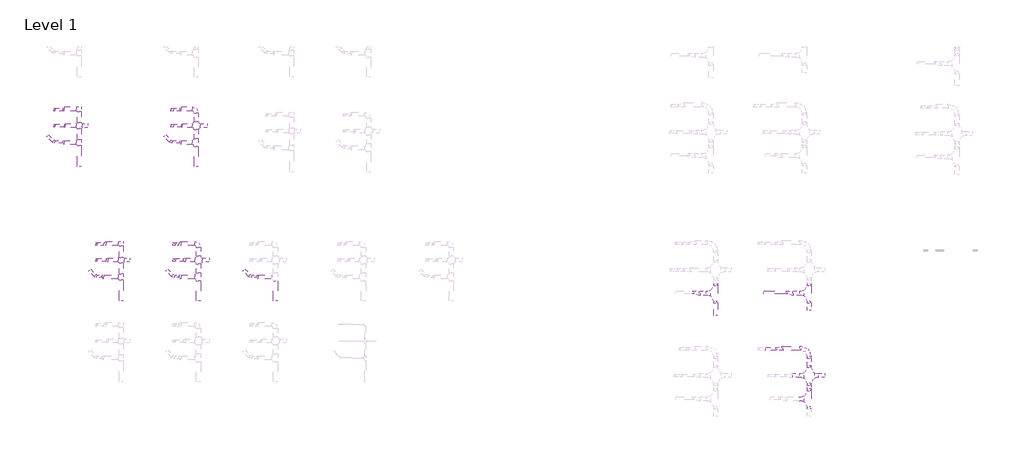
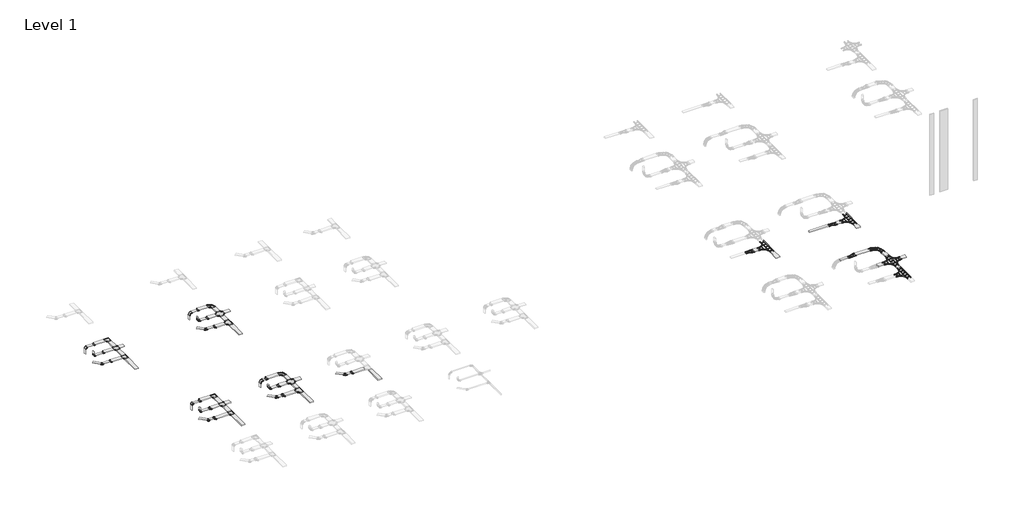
# One storey, part 2 of 42: 67 cable carrier segments, 46 cable carrier fittings.
"""IFC4 building model written with IfcOpenShell, lengths in millimetres."""

from ifc_helpers import new_model, si_unit, frame, origin, place, context, project, spatial, polyline, outline, extrude, transform, mapped, element, save
from components import cable_carrier_fitting_1_mm_2a4d519b, cable_carrier_fitting_1_mm_2e661681, cable_carrier_fitting_1_mm_c912ada3, cable_carrier_fitting_1_mm_5924018d, cable_carrier_fitting_1_mm_d3f2b815, cable_carrier_fitting_1_mm_367de262, cable_carrier_fitting_1_mm_a7febe8f, cable_carrier_fitting_1_mm_2da36d92, cable_carrier_fitting_1_mm_1f39f8d9, cable_carrier_fitting_1_mm_fc54f34e, cable_carrier_fitting_1_mm_42b71fda, cable_carrier_fitting_1_mm_1f89d0ee, cable_carrier_fitting_1_mm_ffd8b238, cable_carrier_fitting_1_mm_874ef249, cable_carrier_fitting_1_mm_28e4292d, cable_carrier_fitting_1_mm_2ed8489a, cable_carrier_fitting_1_mm_6bbfc198, cable_carrier_fitting_1_mm_9e79036f, cable_carrier_fitting_1_mm_2ea6bbca, cable_carrier_fitting_1_mm_d51f4f64, cable_carrier_fitting_1_mm_cfe8fd75, cable_carrier_fitting_1_mm_447bc4b9, cable_carrier_fitting_1_mm_be7f07a0, cable_carrier_fitting_1_mm_44e0f4b3, cable_carrier_fitting_1_mm_02684e42, cable_carrier_fitting_1_mm_9e154423, cable_carrier_fitting_1_5_mm_3523910d, cable_carrier_fitting_1_5_mm_ccf48cd3, cable_carrier_fitting_1_5_mm_0168b917, cable_carrier_fitting_1_mm_c1197fce, cable_carrier_fitting_1_5_mm_cd1b78aa, cable_carrier_fitting_1_5_mm_8b0a73e9, cable_carrier_fitting_1_5_mm_19f47176

model = new_model("IFC4")

# Units and contexts
model_context = context("Model", 3, world=origin())
ifc_project = project(units=[si_unit("LENGTHUNIT", "METRE", prefix="MILLI")], contexts=[model_context])

# Site, building, storey
site = spatial("IfcSite", under=ifc_project)
building = spatial("IfcBuilding", under=site)
storey = spatial("IfcBuildingStorey", under=building, Name="Level 1", Elevation=0.0)

# Cable carrier fittings
placement = place(None, origin())
cable_carrier_fitting_1_mm_shape = cable_carrier_fitting_1_mm_2a4d519b(model_context)
element("IfcCableCarrierFitting", 1, ObjectType="BAKS_Redukcja : 1 mm", at=placement, inside=storey, context=model_context, shape_type="MappedRepresentation", body=[
    mapped(cable_carrier_fitting_1_mm_shape, transform((-29212.5109632, 12056.9815921, 2750.0), x_axis=(1.0, 0.0, 0.0), y_axis=(0.0, 1.0, 0.0), z_axis=(0.0, 0.0, 1.0))),
])
element("IfcCableCarrierFitting", 2, ObjectType="BAKS_Redukcja : 1 mm", at=placement, inside=storey, context=model_context, shape_type="MappedRepresentation", body=[
    mapped(cable_carrier_fitting_1_mm_shape, transform((-20692.5109632, 12056.9815921, 2750.0), x_axis=(1.0, 0.0, 0.0), y_axis=(0.0, 1.0, 0.0), z_axis=(0.0, 0.0, 1.0))),
])
cable_carrier_fitting_1_mm_2_shape = cable_carrier_fitting_1_mm_2e661681(model_context)
element("IfcCableCarrierFitting", 3, ObjectType="BAKS_Redukcja : 1 mm", at=placement, inside=storey, context=model_context, shape_type="MappedRepresentation", body=[
    mapped(cable_carrier_fitting_1_mm_2_shape, transform((-29212.5109632, 13274.9728497, 2750.0), x_axis=(-1.0, 0.0, 0.0), y_axis=(0.0, -1.0, 0.0), z_axis=(0.0, 0.0, 1.0))),
])
element("IfcCableCarrierFitting", 4, ObjectType="BAKS_Redukcja : 1 mm", at=placement, inside=storey, context=model_context, shape_type="MappedRepresentation", body=[
    mapped(cable_carrier_fitting_1_mm_2_shape, transform((-20692.5109632, 13274.9728497, 2750.0), x_axis=(-1.0, 0.0, 0.0), y_axis=(0.0, -1.0, 0.0), z_axis=(0.0, 0.0, 1.0))),
])
cable_carrier_fitting_1_mm_3_shape = cable_carrier_fitting_1_mm_c912ada3(model_context)
element("IfcCableCarrierFitting", 5, ObjectType="BAKS_Redukcja : 1 mm", at=placement, inside=storey, context=model_context, shape_type="MappedRepresentation", body=[
    mapped(cable_carrier_fitting_1_mm_3_shape, transform((-29212.5109632, 10826.3491795, 2750.0), x_axis=(-1.0, 0.0, 0.0), y_axis=(0.0, -1.0, 0.0), z_axis=(0.0, 0.0, 1.0))),
])
element("IfcCableCarrierFitting", 6, ObjectType="BAKS_Redukcja : 1 mm", at=placement, inside=storey, context=model_context, shape_type="MappedRepresentation", body=[
    mapped(cable_carrier_fitting_1_mm_3_shape, transform((-20692.5109632, 10826.3491795, 2750.0), x_axis=(-1.0, 0.0, 0.0), y_axis=(0.0, -1.0, 0.0), z_axis=(0.0, 0.0, 1.0))),
])
cable_carrier_fitting_1_mm_4_shape = cable_carrier_fitting_1_mm_5924018d(model_context)
element("IfcCableCarrierFitting", 7, ObjectType="BAKS_Trójnik_koryta uniwersalny : 1 mm", at=placement, inside=storey, context=model_context, shape_type="MappedRepresentation", body=[
    mapped(cable_carrier_fitting_1_mm_4_shape, transform((-25049.8264137, 1032.0937292, 2750.0), x_axis=(0.0, -1.0, 0.0), y_axis=(1.0, 0.0, 0.0), z_axis=(0.0, 0.0, 1.0))),
])
cable_carrier_fitting_1_mm_5_shape = cable_carrier_fitting_1_mm_d3f2b815(model_context)
element("IfcCableCarrierFitting", 8, ObjectType="BAKS_Czwórnik_koryta uniwersalny : 1 mm", at=placement, inside=storey, context=model_context, shape_type="MappedRepresentation", body=[
    mapped(cable_carrier_fitting_1_mm_5_shape, transform((-25049.8264137, 2262.7261418, 2750.0), x_axis=(0.0, 1.0, 0.0), y_axis=(-1.0, 0.0, 0.0), z_axis=(0.0, 0.0, 1.0))),
])
cable_carrier_fitting_1_mm_6_shape = cable_carrier_fitting_1_mm_367de262(model_context)
element("IfcCableCarrierFitting", 9, ObjectType="BAKS_Czwórnik_koryta KLIK (R140) : 1 mm", at=placement, inside=storey, context=model_context, shape_type="MappedRepresentation", body=[
    mapped(cable_carrier_fitting_1_mm_6_shape, transform((-19429.8264137, 2262.7261418, 2750.0), x_axis=(0.0, 1.0, 0.0), y_axis=(-1.0, 0.0, 0.0), z_axis=(0.0, 0.0, 1.0))),
])
cable_carrier_fitting_1_mm_7_shape = cable_carrier_fitting_1_mm_a7febe8f(model_context)
element("IfcCableCarrierFitting", 10, ObjectType="BAKS_Trójnik_koryta KLIK (R140) : 1 mm", at=placement, inside=storey, context=model_context, shape_type="MappedRepresentation", body=[
    mapped(cable_carrier_fitting_1_mm_7_shape, transform((-19429.8264137, 1032.0937292, 2750.0), x_axis=(0.0, -1.0, 0.0), y_axis=(1.0, 0.0, 0.0), z_axis=(0.0, 0.0, 1.0))),
])
cable_carrier_fitting_1_mm_8_shape = cable_carrier_fitting_1_mm_2da36d92(model_context)
element("IfcCableCarrierFitting", 11, ObjectType="BAKS_Czwórnik_koryta (R140) : 1 mm", at=placement, inside=storey, context=model_context, shape_type="MappedRepresentation", body=[
    mapped(cable_carrier_fitting_1_mm_8_shape, transform((-19592.5109632, 12056.9815921, 2750.0), x_axis=(0.0, 1.0, 0.0), y_axis=(-1.0, 0.0, 0.0), z_axis=(0.0, 0.0, 1.0))),
])
cable_carrier_fitting_1_mm_9_shape = cable_carrier_fitting_1_mm_1f39f8d9(model_context)
element("IfcCableCarrierFitting", 12, ObjectType="BAKS_Trójnik_koryta (R140) : 1 mm", at=placement, inside=storey, context=model_context, shape_type="MappedRepresentation", body=[
    mapped(cable_carrier_fitting_1_mm_9_shape, transform((-19592.5109632, 10826.3491795, 2750.0), x_axis=(0.0, -1.0, 0.0), y_axis=(1.0, 0.0, 0.0), z_axis=(0.0, 0.0, 1.0))),
])
cable_carrier_fitting_1_mm_10_shape = cable_carrier_fitting_1_mm_fc54f34e(model_context)
element("IfcCableCarrierFitting", 13, ObjectType="BAKS_Kolano_koryta_uniwerslane : 1 mm", at=placement, inside=storey, context=model_context, shape_type="MappedRepresentation", body=[
    mapped(cable_carrier_fitting_1_mm_10_shape, transform((-26889.8264137, 1082.0937292, 2750.0), x_axis=(0.7071067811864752, -0.70710678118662, 0.0), y_axis=(0.70710678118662, 0.7071067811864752, 0.0), z_axis=(0.0, 0.0, 1.0))),
])
cable_carrier_fitting_1_mm_11_shape = cable_carrier_fitting_1_mm_42b71fda(model_context)
element("IfcCableCarrierFitting", 14, ObjectType="BAKS_Kolano_koryta_uniwerslane : 1 mm", at=placement, inside=storey, context=model_context, shape_type="MappedRepresentation", body=[
    mapped(cable_carrier_fitting_1_mm_11_shape, transform((-25049.8264137, 3480.7173994, 2750.0), x_axis=(0.0, 1.0, 0.0), y_axis=(-1.0, 0.0, 0.0), z_axis=(0.0, 0.0, 1.0))),
])
cable_carrier_fitting_1_mm_12_shape = cable_carrier_fitting_1_mm_1f89d0ee(model_context)
element("IfcCableCarrierFitting", 15, ObjectType="BAKS_Kolano_koryta_KLIK (R140) : 1 mm", at=placement, inside=storey, context=model_context, shape_type="MappedRepresentation", body=[
    mapped(cable_carrier_fitting_1_mm_12_shape, transform((-21269.8264137, 1082.0937292, 2750.0), x_axis=(0.7071067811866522, -0.707106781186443, 0.0), y_axis=(0.707106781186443, 0.7071067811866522, 0.0), z_axis=(0.0, 0.0, 1.0))),
])
cable_carrier_fitting_1_mm_13_shape = cable_carrier_fitting_1_mm_ffd8b238(model_context)
element("IfcCableCarrierFitting", 16, ObjectType="BAKS_Kolano_koryta_KLIK (R140) : 1 mm", at=placement, inside=storey, context=model_context, shape_type="MappedRepresentation", body=[
    mapped(cable_carrier_fitting_1_mm_13_shape, transform((-19429.8264137, 3480.7173994, 2750.0), x_axis=(0.0, 1.0, 0.0), y_axis=(-1.0, 0.0, 0.0), z_axis=(0.0, 0.0, 1.0))),
])
cable_carrier_fitting_1_mm_14_shape = cable_carrier_fitting_1_mm_874ef249(model_context)
element("IfcCableCarrierFitting", 17, ObjectType="BAKS_Kolano_koryta : 1 mm", at=placement, inside=storey, context=model_context, shape_type="MappedRepresentation", body=[
    mapped(cable_carrier_fitting_1_mm_14_shape, transform((-29952.5109632, 10876.3491795, 2750.0), x_axis=(0.7071067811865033, -0.7071067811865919, 0.0), y_axis=(0.7071067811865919, 0.7071067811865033, 0.0), z_axis=(0.0, 0.0, 1.0))),
])
cable_carrier_fitting_1_mm_15_shape = cable_carrier_fitting_1_mm_28e4292d(model_context)
element("IfcCableCarrierFitting", 18, ObjectType="BAKS_Kolano_koryta : 1 mm", at=placement, inside=storey, context=model_context, shape_type="MappedRepresentation", body=[
    mapped(cable_carrier_fitting_1_mm_15_shape, transform((-28112.5109632, 13274.9728497, 2750.0), x_axis=(0.0, 1.0, 0.0), y_axis=(-1.0, 0.0, 0.0), z_axis=(0.0, 0.0, 1.0))),
])
cable_carrier_fitting_1_mm_16_shape = cable_carrier_fitting_1_mm_2ed8489a(model_context)
element("IfcCableCarrierFitting", 19, ObjectType="BAKS_Kolano_koryta (R140) : 1 mm", at=placement, inside=storey, context=model_context, shape_type="MappedRepresentation", body=[
    mapped(cable_carrier_fitting_1_mm_16_shape, transform((-21432.5109632, 10876.3491795, 2750.0), x_axis=(0.7071067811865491, -0.7071067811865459, 0.0), y_axis=(0.7071067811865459, 0.7071067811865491, 0.0), z_axis=(0.0, 0.0, 1.0))),
])
cable_carrier_fitting_1_mm_17_shape = cable_carrier_fitting_1_mm_6bbfc198(model_context)
element("IfcCableCarrierFitting", 20, ObjectType="BAKS_Kolano_koryta (R140) : 1 mm", at=placement, inside=storey, context=model_context, shape_type="MappedRepresentation", body=[
    mapped(cable_carrier_fitting_1_mm_17_shape, transform((-19592.5109632, 13274.9728497, 2750.0), x_axis=(0.0, 1.0, 0.0), y_axis=(-1.0, 0.0, 0.0), z_axis=(0.0, 0.0, 1.0))),
])
cable_carrier_fitting_1_mm_18_shape = cable_carrier_fitting_1_mm_9e79036f(model_context)
element("IfcCableCarrierFitting", 21, ObjectType="BAKS_Czwórnik_koryta : 1 mm", at=placement, inside=storey, context=model_context, shape_type="MappedRepresentation", body=[
    mapped(cable_carrier_fitting_1_mm_18_shape, transform((-28112.5109632, 12056.9815921, 2750.0), x_axis=(0.0, 1.0, 0.0), y_axis=(-1.0, 0.0, 0.0), z_axis=(0.0, 0.0, 1.0))),
])
cable_carrier_fitting_1_mm_19_shape = cable_carrier_fitting_1_mm_2ea6bbca(model_context)
element("IfcCableCarrierFitting", 22, ObjectType="BAKS_Trójnik_koryta : 1 mm", at=placement, inside=storey, context=model_context, shape_type="MappedRepresentation", body=[
    mapped(cable_carrier_fitting_1_mm_19_shape, transform((-28112.5109632, 10826.3491795, 2750.0), x_axis=(0.0, -1.0, 0.0), y_axis=(1.0, 0.0, 0.0), z_axis=(0.0, 0.0, 1.0))),
])
cable_carrier_fitting_1_mm_20_shape = cable_carrier_fitting_1_mm_d51f4f64(model_context)
element("IfcCableCarrierFitting", 23, ObjectType="BAKS_Łuk_koryta_pionowy (R50)z : 1 mm", at=placement, inside=storey, context=model_context, shape_type="MappedRepresentation", body=[
    mapped(cable_carrier_fitting_1_mm_20_shape, transform((-29952.5109632, 13224.9728497, 2750.0), x_axis=(0.0, 0.0, 1.0), y_axis=(1.0, 0.0, 0.0), z_axis=(0.0, 1.0, 0.0))),
])
element("IfcCableCarrierFitting", 24, ObjectType="BAKS_Łuk_koryta_pionowy (R50)w : 1 mm", at=placement, inside=storey, context=model_context, shape_type="MappedRepresentation", body=[
    mapped(cable_carrier_fitting_1_mm_20_shape, transform((-29952.5109632, 12056.9815921, 2750.0), x_axis=(0.0, 0.0, -1.0), y_axis=(1.0, 0.0, 0.0), z_axis=(0.0, -1.0, 0.0))),
])
cable_carrier_fitting_1_mm_21_shape = cable_carrier_fitting_1_mm_cfe8fd75(model_context)
element("IfcCableCarrierFitting", 25, ObjectType="BAKS_Łuk_koryta_pionowy (R50)z : 1 mm", at=placement, inside=storey, context=model_context, shape_type="MappedRepresentation", body=[
    mapped(cable_carrier_fitting_1_mm_21_shape, transform((-26889.8264137, 3430.7173994, 2750.0), x_axis=(0.0, 0.0, 1.0), y_axis=(1.0, 0.0, 0.0), z_axis=(0.0, 1.0, 0.0))),
])
element("IfcCableCarrierFitting", 26, ObjectType="BAKS_Łuk_koryta_pionowy (R50)w : 1 mm", at=placement, inside=storey, context=model_context, shape_type="MappedRepresentation", body=[
    mapped(cable_carrier_fitting_1_mm_21_shape, transform((-26889.8264137, 2262.7261418, 2750.0), x_axis=(0.0, 0.0, -1.0), y_axis=(1.0, 0.0, 0.0), z_axis=(0.0, -1.0, 0.0))),
])
cable_carrier_fitting_1_mm_22_shape = cable_carrier_fitting_1_mm_447bc4b9(model_context)
element("IfcCableCarrierFitting", 27, ObjectType="BAKS_Redukcja KLIK : 1 mm", at=placement, inside=storey, context=model_context, shape_type="MappedRepresentation", body=[
    mapped(cable_carrier_fitting_1_mm_22_shape, transform((-26149.8264137, 2262.7261418, 2750.0), x_axis=(1.0, 0.0, 0.0), y_axis=(0.0, 1.0, 0.0), z_axis=(0.0, 0.0, 1.0))),
])
element("IfcCableCarrierFitting", 28, ObjectType="BAKS_Redukcja KLIK : 1 mm", at=placement, inside=storey, context=model_context, shape_type="MappedRepresentation", body=[
    mapped(cable_carrier_fitting_1_mm_22_shape, transform((-20529.8264137, 2262.7261418, 2750.0), x_axis=(1.0, 0.0, 0.0), y_axis=(0.0, 1.0, 0.0), z_axis=(0.0, 0.0, 1.0))),
])
cable_carrier_fitting_1_mm_23_shape = cable_carrier_fitting_1_mm_be7f07a0(model_context)
element("IfcCableCarrierFitting", 29, ObjectType="BAKS_Redukcja KLIK : 1 mm", at=placement, inside=storey, context=model_context, shape_type="MappedRepresentation", body=[
    mapped(cable_carrier_fitting_1_mm_23_shape, transform((-26149.8264137, 3480.7173994, 2750.0), x_axis=(-1.0, 0.0, 0.0), y_axis=(0.0, -1.0, 0.0), z_axis=(0.0, 0.0, 1.0))),
])
element("IfcCableCarrierFitting", 30, ObjectType="BAKS_Redukcja KLIK : 1 mm", at=placement, inside=storey, context=model_context, shape_type="MappedRepresentation", body=[
    mapped(cable_carrier_fitting_1_mm_23_shape, transform((-20689.8264137, 3480.7173994, 2750.0), x_axis=(-1.0, 0.0, 0.0), y_axis=(0.0, -1.0, 0.0), z_axis=(0.0, 0.0, 1.0))),
])
cable_carrier_fitting_1_mm_24_shape = cable_carrier_fitting_1_mm_44e0f4b3(model_context)
element("IfcCableCarrierFitting", 31, ObjectType="BAKS_Redukcja KLIK : 1 mm", at=placement, inside=storey, context=model_context, shape_type="MappedRepresentation", body=[
    mapped(cable_carrier_fitting_1_mm_24_shape, transform((-26309.8264137, 1032.0937292, 2750.0), x_axis=(-1.0, 0.0, 0.0), y_axis=(0.0, -1.0, 0.0), z_axis=(0.0, 0.0, 1.0))),
])
element("IfcCableCarrierFitting", 32, ObjectType="BAKS_Redukcja KLIK : 1 mm", at=placement, inside=storey, context=model_context, shape_type="MappedRepresentation", body=[
    mapped(cable_carrier_fitting_1_mm_24_shape, transform((-20689.8264137, 1032.0937292, 2750.0), x_axis=(-1.0, 0.0, 0.0), y_axis=(0.0, -1.0, 0.0), z_axis=(0.0, 0.0, 1.0))),
])
cable_carrier_fitting_1_mm_25_shape = cable_carrier_fitting_1_mm_02684e42(model_context)
element("IfcCableCarrierFitting", 33, ObjectType="BAKS_Łuk_koryta_pionowy (R140)z : 1 mm", at=placement, inside=storey, context=model_context, shape_type="MappedRepresentation", body=[
    mapped(cable_carrier_fitting_1_mm_25_shape, transform((-21269.8264137, 3430.7173994, 2750.0), x_axis=(0.0, 0.0, 1.0), y_axis=(1.0, 0.0, 0.0), z_axis=(0.0, 1.0, 0.0))),
])
cable_carrier_fitting_1_mm_26_shape = cable_carrier_fitting_1_mm_9e154423(model_context)
element("IfcCableCarrierFitting", 34, ObjectType="BAKS_Łuk_koryta_pionowy (R140)z : 1 mm", at=placement, inside=storey, context=model_context, shape_type="MappedRepresentation", body=[
    mapped(cable_carrier_fitting_1_mm_26_shape, transform((-21432.5109632, 13224.9728497, 2750.0), x_axis=(0.0, 0.0, 1.0), y_axis=(1.0, 0.0, 0.0), z_axis=(0.0, 1.0, 0.0))),
])
element("IfcCableCarrierFitting", 35, ObjectType="BAKS_Łuk_koryta_pionowy (R140)w : 1 mm", at=placement, inside=storey, context=model_context, shape_type="MappedRepresentation", body=[
    mapped(cable_carrier_fitting_1_mm_25_shape, transform((-21269.8264137, 2262.7261418, 2750.0), x_axis=(0.0, 0.0, -1.0), y_axis=(1.0, 0.0, 0.0), z_axis=(0.0, -1.0, 0.0))),
])
element("IfcCableCarrierFitting", 36, ObjectType="BAKS_Łuk_koryta_pionowy (R140)w : 1 mm", at=placement, inside=storey, context=model_context, shape_type="MappedRepresentation", body=[
    mapped(cable_carrier_fitting_1_mm_26_shape, transform((-21432.5109632, 12056.9815921, 2750.0), x_axis=(0.0, 0.0, -1.0), y_axis=(1.0, 0.0, 0.0), z_axis=(0.0, -1.0, 0.0))),
])
cable_carrier_fitting_1_5_mm_shape = cable_carrier_fitting_1_5_mm_3523910d(model_context)
element("IfcCableCarrierFitting", 37, ObjectType="BAKS_Łuk_drabiny E90 : 1.5 mm", at=placement, inside=storey, context=model_context, shape_type="MappedRepresentation", body=[
    mapped(cable_carrier_fitting_1_5_mm_shape, transform((25012.7309526, -4163.4535, 2750.0), x_axis=(0.0, 1.0, 0.0), y_axis=(-1.0, 0.0, 0.0), z_axis=(0.0, 0.0, 1.0))),
])
cable_carrier_fitting_1_5_mm_2_shape = cable_carrier_fitting_1_5_mm_ccf48cd3(model_context)
element("IfcCableCarrierFitting", 38, ObjectType="BAKS_Redukcja_drabiny E90 : 1.5 mm", at=placement, inside=storey, context=model_context, shape_type="MappedRepresentation", body=[
    mapped(cable_carrier_fitting_1_5_mm_2_shape, transform((17112.7309526, -152.0771703, 2750.0), x_axis=(-1.0, 0.0, 0.0), y_axis=(0.0, -1.0, 0.0), z_axis=(0.0, 0.0, 1.0))),
])
element("IfcCableCarrierFitting", 39, ObjectType="BAKS_Redukcja_drabiny E90 : 1.5 mm", at=placement, inside=storey, context=model_context, shape_type="MappedRepresentation", body=[
    mapped(cable_carrier_fitting_1_5_mm_2_shape, transform((23912.7309526, -152.0771703, 2750.0), x_axis=(-1.0, 0.0, 0.0), y_axis=(0.0, -1.0, 0.0), z_axis=(0.0, 0.0, 1.0))),
])
cable_carrier_fitting_1_5_mm_3_shape = cable_carrier_fitting_1_5_mm_0168b917(model_context)
element("IfcCableCarrierFitting", 40, ObjectType="BAKS_Redukcja_drabiny E90 : 1.5 mm", at=placement, inside=storey, context=model_context, shape_type="MappedRepresentation", body=[
    mapped(cable_carrier_fitting_1_5_mm_3_shape, transform((22546.1450634, -4213.4535, 2750.0), x_axis=(1.0, 0.0, 0.0), y_axis=(0.0, 1.0, 0.0), z_axis=(0.0, 0.0, 1.0))),
])
cable_carrier_fitting_1_mm_27_shape = cable_carrier_fitting_1_mm_c1197fce(model_context)
element("IfcCableCarrierFitting", 41, ObjectType="BAKS_Redukcja E90 : 1.5 mm", at=placement, inside=storey, context=model_context, shape_type="MappedRepresentation", body=[
    mapped(cable_carrier_fitting_1_mm_27_shape, transform((-15082.2064802, 1032.0937292, 2750.0), x_axis=(-1.0, 0.0, 0.0), y_axis=(0.0, -1.0, 0.0), z_axis=(0.0, 0.0, 1.0))),
])
cable_carrier_fitting_1_5_mm_4_shape = cable_carrier_fitting_1_5_mm_cd1b78aa(model_context)
element("IfcCableCarrierFitting", 42, ObjectType="BAKS_Kolano_koryta E90 (R140) : 1.5 mm", at=placement, inside=storey, context=model_context, shape_type="MappedRepresentation", body=[
    mapped(cable_carrier_fitting_1_5_mm_4_shape, transform((-15662.2064802, 1082.0937292, 2750.0), x_axis=(0.7071067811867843, -0.7071067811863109, 0.0), y_axis=(0.7071067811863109, 0.7071067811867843, 0.0), z_axis=(0.0, 0.0, 1.0))),
])
cable_carrier_fitting_1_5_mm_5_shape = cable_carrier_fitting_1_5_mm_8b0a73e9(model_context)
element("IfcCableCarrierFitting", 43, ObjectType="BAKS_Trójnik_drabiny E90 : 1.5 mm", at=placement, inside=storey, context=model_context, shape_type="MappedRepresentation", body=[
    mapped(cable_carrier_fitting_1_5_mm_5_shape, transform((18212.7309526, -152.0771703, 2750.0), x_axis=(0.0, -1.0, 0.0), y_axis=(1.0, 0.0, 0.0), z_axis=(0.0, 0.0, 1.0))),
])
element("IfcCableCarrierFitting", 44, ObjectType="BAKS_Trójnik_drabiny E90 : 1.5 mm", at=placement, inside=storey, context=model_context, shape_type="MappedRepresentation", body=[
    mapped(cable_carrier_fitting_1_5_mm_5_shape, transform((25012.7309526, -152.0771703, 2750.0), x_axis=(0.0, -1.0, 0.0), y_axis=(1.0, 0.0, 0.0), z_axis=(0.0, 0.0, 1.0))),
])
element("IfcCableCarrierFitting", 45, ObjectType="BAKS_Trójnik_drabiny E90 : 1.5 mm", at=placement, inside=storey, context=model_context, shape_type="MappedRepresentation", body=[
    mapped(cable_carrier_fitting_1_5_mm_5_shape, transform((25012.7309526, -7852.0771703, 2750.0), x_axis=(0.0, -1.0, 0.0), y_axis=(1.0, 0.0, 0.0), z_axis=(0.0, 0.0, 1.0))),
])
cable_carrier_fitting_1_5_mm_6_shape = cable_carrier_fitting_1_5_mm_19f47176(model_context)
element("IfcCableCarrierFitting", 46, ObjectType="BAKS_Czwórnik_drabiny E90 : 1.5 mm", at=placement, inside=storey, context=model_context, shape_type="MappedRepresentation", body=[
    mapped(cable_carrier_fitting_1_5_mm_6_shape, transform((25012.7309526, -6150.2319503, 2750.0), x_axis=(0.0, 1.0, 0.0), y_axis=(-1.0, 0.0, 0.0), z_axis=(0.0, 0.0, 1.0))),
])

# Cable carrier segments
element("IfcCableCarrierSegment", 47, ObjectType="BAKS - koryto kablowe H60 KLIK (KFJ) - ostre", at=placement, inside=storey, context=model_context, shape_type="SweptSolid", body=[
    extrude(outline(polyline([(-24899.8264137, 1237.0937292), (-25199.8264137, 1237.0937292), (-25199.8264137, 2057.7261418), (-24899.8264137, 2057.7261418), (-24899.8264137, 1237.0937292)])), frame((0.0, 0.0, 2720.0), z_axis=(0.0, 0.0, 1.0), x_axis=(1.0, 0.0, 0.0)), (0.0, 0.0, 1.0), 60.0),
])
element("IfcCableCarrierSegment", 48, ObjectType="BAKS - koryto kablowe H60 KLIK (KFJ) - ostre", at=placement, inside=storey, context=model_context, shape_type="SweptSolid", body=[
    extrude(outline(polyline([(-26859.8264137, 3330.7173994), (-26919.8264137, 3330.7173994), (-26919.8264137, 3530.7173994), (-26859.8264137, 3530.7173994), (-26859.8264137, 3330.7173994)])), frame((0.0, 0.0, 2200.0), z_axis=(0.0, 0.0, 1.0), x_axis=(1.0, 0.0, 0.0)), (0.0, 0.0, 1.0), 445.0),
])
element("IfcCableCarrierSegment", 49, ObjectType="BAKS - koryto kablowe H60 KLIK (KFJ) - ostre", at=placement, inside=storey, context=model_context, shape_type="SweptSolid", body=[
    extrude(outline(polyline([(-26309.8264137, 3530.7173994), (-26309.8264137, 3330.7173994), (-26784.8264137, 3330.7173994), (-26784.8264137, 3530.7173994), (-26309.8264137, 3530.7173994)])), frame((0.0, 0.0, 2720.0), z_axis=(0.0, 0.0, 1.0), x_axis=(1.0, 0.0, 0.0)), (0.0, 0.0, 1.0), 60.0),
])
element("IfcCableCarrierSegment", 50, ObjectType="BAKS - koryto kablowe H60 KLIK (KFJ) - ostre", at=placement, inside=storey, context=model_context, shape_type="SweptSolid", body=[
    extrude(outline(polyline([(-24899.8264137, -719.2826006), (-25199.8264137, -719.2826006), (-25199.8264137, 827.0937292), (-24899.8264137, 827.0937292), (-24899.8264137, -719.2826006)])), frame((0.0, 0.0, 2720.0), z_axis=(0.0, 0.0, 1.0), x_axis=(1.0, 0.0, 0.0)), (0.0, 0.0, 1.0), 60.0),
])
element("IfcCableCarrierSegment", 51, ObjectType="BAKS - koryto kablowe H60 KLIK (KFJ) - ostre", at=placement, inside=storey, context=model_context, shape_type="SweptSolid", body=[
    extrude(outline(polyline([(-26919.8264137, 2162.7261418), (-26919.8264137, 2362.7261418), (-26859.8264137, 2362.7261418), (-26859.8264137, 2162.7261418), (-26919.8264137, 2162.7261418)])), frame((0.0, 0.0, 2855.0), z_axis=(0.0, 0.0, 1.0), x_axis=(1.0, 0.0, 0.0)), (0.0, 0.0, 1.0), 245.0),
])
element("IfcCableCarrierSegment", 52, ObjectType="BAKS - koryto kablowe H60 KLIK (KFJ) - ostre", at=placement, inside=storey, context=model_context, shape_type="SweptSolid", body=[
    extrude(outline(polyline([(-26784.8264137, 2162.7261418), (-26784.8264137, 2362.7261418), (-26149.8264137, 2362.7261418), (-26149.8264137, 2162.7261418), (-26784.8264137, 2162.7261418)])), frame((0.0, 0.0, 2720.0), z_axis=(0.0, 0.0, 1.0), x_axis=(1.0, 0.0, 0.0)), (0.0, 0.0, 1.0), 60.0),
])
element("IfcCableCarrierSegment", 53, ObjectType="BAKS - koryto kablowe H60 KLIK (KFJ) - ostre", at=placement, inside=storey, context=model_context, shape_type="SweptSolid", body=[
    extrude(outline(polyline([(-27427.2275674, 1478.0735267), (-27285.8062111, 1619.4948829), (-26865.2212913, 1198.909963), (-27006.6426475, 1057.4886068), (-27427.2275674, 1478.0735267)])), frame((0.0, 0.0, 2720.0), z_axis=(0.0, 0.0, 1.0), x_axis=(1.0, 0.0, 0.0)), (0.0, 0.0, 1.0), 60.0),
])
element("IfcCableCarrierSegment", 54, ObjectType="BAKS - koryto kablowe H60 KLIK (KFJ) - ostre", at=placement, inside=storey, context=model_context, shape_type="SweptSolid", body=[
    extrude(outline(polyline([(-26469.8264137, 1182.0937292), (-26469.8264137, 982.0937292), (-26824.6233115, 982.0937292), (-26824.6233115, 1182.0937292), (-26469.8264137, 1182.0937292)])), frame((0.0, 0.0, 2720.0), z_axis=(0.0, 0.0, 1.0), x_axis=(1.0, 0.0, 0.0)), (0.0, 0.0, 1.0), 60.0),
])
element("IfcCableCarrierSegment", 55, ObjectType="BAKS - koryto kablowe H60 KLIK (KFJ) - ostre", at=placement, inside=storey, context=model_context, shape_type="SweptSolid", body=[
    extrude(outline(polyline([(-24427.3264137, 2412.7261418), (-24427.3264137, 2112.7261418), (-24844.8264137, 2112.7261418), (-24844.8264137, 2412.7261418), (-24427.3264137, 2412.7261418)])), frame((0.0, 0.0, 2720.0), z_axis=(0.0, 0.0, 1.0), x_axis=(1.0, 0.0, 0.0)), (0.0, 0.0, 1.0), 60.0),
])
element("IfcCableCarrierSegment", 56, ObjectType="BAKS - koryto kablowe H60 KLIK (KFJ) - ostre", at=placement, inside=storey, context=model_context, shape_type="SweptSolid", body=[
    extrude(outline(polyline([(-25254.8264137, 1182.0937292), (-25254.8264137, 882.0937292), (-26309.8264137, 882.0937292), (-26309.8264137, 1182.0937292), (-25254.8264137, 1182.0937292)])), frame((0.0, 0.0, 2720.0), z_axis=(0.0, 0.0, 1.0), x_axis=(1.0, 0.0, 0.0)), (0.0, 0.0, 1.0), 60.0),
])
element("IfcCableCarrierSegment", 57, ObjectType="BAKS - koryto kablowe H60 KLIK (KFJ) - ostre", at=placement, inside=storey, context=model_context, shape_type="SweptSolid", body=[
    extrude(outline(polyline([(-25989.8264137, 2112.7261418), (-25989.8264137, 2412.7261418), (-25254.8264137, 2412.7261418), (-25254.8264137, 2112.7261418), (-25989.8264137, 2112.7261418)])), frame((0.0, 0.0, 2720.0), z_axis=(0.0, 0.0, 1.0), x_axis=(1.0, 0.0, 0.0)), (0.0, 0.0, 1.0), 60.0),
])
element("IfcCableCarrierSegment", 58, ObjectType="BAKS - koryto kablowe H60 KLIK (KFJ) - ostre", at=placement, inside=storey, context=model_context, shape_type="SweptSolid", body=[
    extrude(outline(polyline([(-24899.8264137, 2467.7261418), (-25199.8264137, 2467.7261418), (-25199.8264137, 3274.7173994), (-24899.8264137, 3274.7173994), (-24899.8264137, 2467.7261418)])), frame((0.0, 0.0, 2720.0), z_axis=(0.0, 0.0, 1.0), x_axis=(1.0, 0.0, 0.0)), (0.0, 0.0, 1.0), 60.0),
])
element("IfcCableCarrierSegment", 59, ObjectType="BAKS - koryto kablowe H60 KLIK (KFJ) - ostre", at=placement, inside=storey, context=model_context, shape_type="SweptSolid", body=[
    extrude(outline(polyline([(-25255.8264137, 3630.7173994), (-25255.8264137, 3330.7173994), (-26149.8264137, 3330.7173994), (-26149.8264137, 3630.7173994), (-25255.8264137, 3630.7173994)])), frame((0.0, 0.0, 2720.0), z_axis=(0.0, 0.0, 1.0), x_axis=(1.0, 0.0, 0.0)), (0.0, 0.0, 1.0), 60.0),
])
element("IfcCableCarrierSegment", 60, ObjectType="BAKS - koryto kablowe H60 KLIK (KFJ) - promieniowe", at=placement, inside=storey, context=model_context, shape_type="SweptSolid", body=[
    extrude(outline(polyline([(-19279.8264137, 1323.0937292), (-19579.8264137, 1323.0937292), (-19579.8264137, 1971.7261418), (-19279.8264137, 1971.7261418), (-19279.8264137, 1323.0937292)])), frame((0.0, 0.0, 2720.0), z_axis=(0.0, 0.0, 1.0), x_axis=(1.0, 0.0, 0.0)), (0.0, 0.0, 1.0), 60.0),
])
element("IfcCableCarrierSegment", 61, ObjectType="BAKS - koryto kablowe H60 KLIK (KFJ) - promieniowe", at=placement, inside=storey, context=model_context, shape_type="SweptSolid", body=[
    extrude(outline(polyline([(-21239.8264137, 3330.7173994), (-21299.8264137, 3330.7173994), (-21299.8264137, 3530.7173994), (-21239.8264137, 3530.7173994), (-21239.8264137, 3330.7173994)])), frame((0.0, 0.0, 2200.0), z_axis=(0.0, 0.0, 1.0), x_axis=(1.0, 0.0, 0.0)), (0.0, 0.0, 1.0), 355.0),
])
element("IfcCableCarrierSegment", 62, ObjectType="BAKS - koryto kablowe H60 KLIK (KFJ) - promieniowe", at=placement, inside=storey, context=model_context, shape_type="SweptSolid", body=[
    extrude(outline(polyline([(-20849.8264137, 3530.7173994), (-20849.8264137, 3330.7173994), (-21074.8264137, 3330.7173994), (-21074.8264137, 3530.7173994), (-20849.8264137, 3530.7173994)])), frame((0.0, 0.0, 2720.0), z_axis=(0.0, 0.0, 1.0), x_axis=(1.0, 0.0, 0.0)), (0.0, 0.0, 1.0), 60.0),
])
element("IfcCableCarrierSegment", 63, ObjectType="BAKS - koryto kablowe H60 KLIK (KFJ) - promieniowe", at=placement, inside=storey, context=model_context, shape_type="SweptSolid", body=[
    extrude(outline(polyline([(-19279.8264137, -719.2826006), (-19579.8264137, -719.2826006), (-19579.8264137, 741.0937292), (-19279.8264137, 741.0937292), (-19279.8264137, -719.2826006)])), frame((0.0, 0.0, 2720.0), z_axis=(0.0, 0.0, 1.0), x_axis=(1.0, 0.0, 0.0)), (0.0, 0.0, 1.0), 60.0),
])
element("IfcCableCarrierSegment", 64, ObjectType="BAKS - koryto kablowe H60 KLIK (KFJ) - promieniowe", at=placement, inside=storey, context=model_context, shape_type="SweptSolid", body=[
    extrude(outline(polyline([(-21299.8264137, 2162.7261418), (-21299.8264137, 2362.7261418), (-21239.8264137, 2362.7261418), (-21239.8264137, 2162.7261418), (-21299.8264137, 2162.7261418)])), frame((0.0, 0.0, 2945.0), z_axis=(0.0, 0.0, 1.0), x_axis=(1.0, 0.0, 0.0)), (0.0, 0.0, 1.0), 155.0),
])
element("IfcCableCarrierSegment", 65, ObjectType="BAKS - koryto kablowe H60 KLIK (KFJ) - promieniowe", at=placement, inside=storey, context=model_context, shape_type="SweptSolid", body=[
    extrude(outline(polyline([(-21074.8264137, 2162.7261418), (-21074.8264137, 2362.7261418), (-20529.8264137, 2362.7261418), (-20529.8264137, 2162.7261418), (-21074.8264137, 2162.7261418)])), frame((0.0, 0.0, 2720.0), z_axis=(0.0, 0.0, 1.0), x_axis=(1.0, 0.0, 0.0)), (0.0, 0.0, 1.0), 60.0),
])
element("IfcCableCarrierSegment", 66, ObjectType="BAKS - koryto kablowe H60 KLIK (KFJ) - promieniowe", at=placement, inside=storey, context=model_context, shape_type="SweptSolid", body=[
    extrude(outline(polyline([(-21807.2275674, 1478.0735267), (-21665.8062111, 1619.4948829), (-21270.1172149, 1223.8058866), (-21411.5385711, 1082.3845304), (-21807.2275674, 1478.0735267)])), frame((0.0, 0.0, 2720.0), z_axis=(0.0, 0.0, 1.0), x_axis=(1.0, 0.0, 0.0)), (0.0, 0.0, 1.0), 60.0),
])
element("IfcCableCarrierSegment", 67, ObjectType="BAKS - koryto kablowe H60 KLIK (KFJ) - promieniowe", at=placement, inside=storey, context=model_context, shape_type="SweptSolid", body=[
    extrude(outline(polyline([(-20849.8264137, 1182.0937292), (-20849.8264137, 982.0937292), (-21169.4151587, 982.0937292), (-21169.4151587, 1182.0937292), (-20849.8264137, 1182.0937292)])), frame((0.0, 0.0, 2720.0), z_axis=(0.0, 0.0, 1.0), x_axis=(1.0, 0.0, 0.0)), (0.0, 0.0, 1.0), 60.0),
])
element("IfcCableCarrierSegment", 68, ObjectType="BAKS - koryto kablowe H60 KLIK (KFJ) - promieniowe", at=placement, inside=storey, context=model_context, shape_type="SweptSolid", body=[
    extrude(outline(polyline([(-18634.8264137, 2412.7261418), (-18634.8264137, 2112.7261418), (-19138.8264137, 2112.7261418), (-19138.8264137, 2412.7261418), (-18634.8264137, 2412.7261418)])), frame((0.0, 0.0, 2720.0), z_axis=(0.0, 0.0, 1.0), x_axis=(1.0, 0.0, 0.0)), (0.0, 0.0, 1.0), 60.0),
])
element("IfcCableCarrierSegment", 69, ObjectType="BAKS - koryto kablowe H60 KLIK (KFJ) - promieniowe", at=placement, inside=storey, context=model_context, shape_type="SweptSolid", body=[
    extrude(outline(polyline([(-19720.8264137, 1182.0937292), (-19720.8264137, 882.0937292), (-20689.8264137, 882.0937292), (-20689.8264137, 1182.0937292), (-19720.8264137, 1182.0937292)])), frame((0.0, 0.0, 2720.0), z_axis=(0.0, 0.0, 1.0), x_axis=(1.0, 0.0, 0.0)), (0.0, 0.0, 1.0), 60.0),
])
element("IfcCableCarrierSegment", 70, ObjectType="BAKS - koryto kablowe H60 KLIK (KFJ) - promieniowe", at=placement, inside=storey, context=model_context, shape_type="SweptSolid", body=[
    extrude(outline(polyline([(-20369.8264137, 2112.7261418), (-20369.8264137, 2412.7261418), (-19720.8264137, 2412.7261418), (-19720.8264137, 2112.7261418), (-20369.8264137, 2112.7261418)])), frame((0.0, 0.0, 2720.0), z_axis=(0.0, 0.0, 1.0), x_axis=(1.0, 0.0, 0.0)), (0.0, 0.0, 1.0), 60.0),
])
element("IfcCableCarrierSegment", 71, ObjectType="BAKS - koryto kablowe H60 KLIK (KFJ) - promieniowe", at=placement, inside=storey, context=model_context, shape_type="SweptSolid", body=[
    extrude(outline(polyline([(-19279.8264137, 2553.7261418), (-19579.8264137, 2553.7261418), (-19579.8264137, 3189.7173994), (-19279.8264137, 3189.7173994), (-19279.8264137, 2553.7261418)])), frame((0.0, 0.0, 2720.0), z_axis=(0.0, 0.0, 1.0), x_axis=(1.0, 0.0, 0.0)), (0.0, 0.0, 1.0), 60.0),
])
element("IfcCableCarrierSegment", 72, ObjectType="BAKS - koryto kablowe H60 KLIK (KFJ) - promieniowe", at=placement, inside=storey, context=model_context, shape_type="SweptSolid", body=[
    extrude(outline(polyline([(-19720.8264137, 3630.7173994), (-19720.8264137, 3330.7173994), (-20689.8264137, 3330.7173994), (-20689.8264137, 3630.7173994), (-19720.8264137, 3630.7173994)])), frame((0.0, 0.0, 2720.0), z_axis=(0.0, 0.0, 1.0), x_axis=(1.0, 0.0, 0.0)), (0.0, 0.0, 1.0), 60.0),
])
element("IfcCableCarrierSegment", 73, ObjectType="BAKS - koryto kablowe H50 (KCJ) - ostre", at=placement, inside=storey, context=model_context, shape_type="SweptSolid", body=[
    extrude(outline(polyline([(-27962.5109632, 11031.3491795), (-28262.5109632, 11031.3491795), (-28262.5109632, 11851.9815921), (-27962.5109632, 11851.9815921), (-27962.5109632, 11031.3491795)])), frame((0.0, 0.0, 2725.0), z_axis=(0.0, 0.0, 1.0), x_axis=(1.0, 0.0, 0.0)), (0.0, 0.0, 1.0), 50.0),
])
element("IfcCableCarrierSegment", 74, ObjectType="BAKS - koryto kablowe H50 (KCJ) - ostre", at=placement, inside=storey, context=model_context, shape_type="SweptSolid", body=[
    extrude(outline(polyline([(-29927.5109632, 13124.9728497), (-29977.5109632, 13124.9728497), (-29977.5109632, 13324.9728497), (-29927.5109632, 13324.9728497), (-29927.5109632, 13124.9728497)])), frame((0.0, 0.0, 2200.0), z_axis=(0.0, 0.0, 1.0), x_axis=(1.0, 0.0, 0.0)), (0.0, 0.0, 1.0), 450.0),
])
element("IfcCableCarrierSegment", 75, ObjectType="BAKS - koryto kablowe H50 (KCJ) - ostre", at=placement, inside=storey, context=model_context, shape_type="SweptSolid", body=[
    extrude(outline(polyline([(-29307.5109632, 13324.9728497), (-29307.5109632, 13124.9728497), (-29852.5109632, 13124.9728497), (-29852.5109632, 13324.9728497), (-29307.5109632, 13324.9728497)])), frame((0.0, 0.0, 2725.0), z_axis=(0.0, 0.0, 1.0), x_axis=(1.0, 0.0, 0.0)), (0.0, 0.0, 1.0), 50.0),
])
element("IfcCableCarrierSegment", 76, ObjectType="BAKS - koryto kablowe H50 (KCJ) - ostre", at=placement, inside=storey, context=model_context, shape_type="SweptSolid", body=[
    extrude(outline(polyline([(-27962.5109632, 9074.9728497), (-28262.5109632, 9074.9728497), (-28262.5109632, 10621.3491795), (-27962.5109632, 10621.3491795), (-27962.5109632, 9074.9728497)])), frame((0.0, 0.0, 2725.0), z_axis=(0.0, 0.0, 1.0), x_axis=(1.0, 0.0, 0.0)), (0.0, 0.0, 1.0), 50.0),
])
element("IfcCableCarrierSegment", 77, ObjectType="BAKS - koryto kablowe H50 (KCJ) - ostre", at=placement, inside=storey, context=model_context, shape_type="SweptSolid", body=[
    extrude(outline(polyline([(-29977.5109632, 11956.9815921), (-29977.5109632, 12156.9815921), (-29927.5109632, 12156.9815921), (-29927.5109632, 11956.9815921), (-29977.5109632, 11956.9815921)])), frame((0.0, 0.0, 2850.0), z_axis=(0.0, 0.0, 1.0), x_axis=(1.0, 0.0, 0.0)), (0.0, 0.0, 1.0), 250.0),
])
element("IfcCableCarrierSegment", 78, ObjectType="BAKS - koryto kablowe H50 (KCJ) - ostre", at=placement, inside=storey, context=model_context, shape_type="SweptSolid", body=[
    extrude(outline(polyline([(-29852.5109632, 11956.9815921), (-29852.5109632, 12156.9815921), (-29212.5109632, 12156.9815921), (-29212.5109632, 11956.9815921), (-29852.5109632, 11956.9815921)])), frame((0.0, 0.0, 2725.0), z_axis=(0.0, 0.0, 1.0), x_axis=(1.0, 0.0, 0.0)), (0.0, 0.0, 1.0), 50.0),
])
element("IfcCableCarrierSegment", 79, ObjectType="BAKS - koryto kablowe H50 (KCJ) - ostre", at=placement, inside=storey, context=model_context, shape_type="SweptSolid", body=[
    extrude(outline(polyline([(-30489.9121169, 11272.3289769), (-30348.4907606, 11413.7503332), (-29927.9058408, 10993.1654133), (-30069.327197, 10851.744057), (-30489.9121169, 11272.3289769)])), frame((0.0, 0.0, 2725.0), z_axis=(0.0, 0.0, 1.0), x_axis=(1.0, 0.0, 0.0)), (0.0, 0.0, 1.0), 50.0),
])
element("IfcCableCarrierSegment", 80, ObjectType="BAKS - koryto kablowe H50 (KCJ) - ostre", at=placement, inside=storey, context=model_context, shape_type="SweptSolid", body=[
    extrude(outline(polyline([(-29307.5109632, 10976.3491795), (-29307.5109632, 10776.3491795), (-29887.307861, 10776.3491795), (-29887.307861, 10976.3491795), (-29307.5109632, 10976.3491795)])), frame((0.0, 0.0, 2725.0), z_axis=(0.0, 0.0, 1.0), x_axis=(1.0, 0.0, 0.0)), (0.0, 0.0, 1.0), 50.0),
])
element("IfcCableCarrierSegment", 81, ObjectType="BAKS - koryto kablowe H50 (KCJ) - ostre", at=placement, inside=storey, context=model_context, shape_type="SweptSolid", body=[
    extrude(outline(polyline([(-27490.0109632, 12206.9815921), (-27490.0109632, 11906.9815921), (-27907.5109632, 11906.9815921), (-27907.5109632, 12206.9815921), (-27490.0109632, 12206.9815921)])), frame((0.0, 0.0, 2725.0), z_axis=(0.0, 0.0, 1.0), x_axis=(1.0, 0.0, 0.0)), (0.0, 0.0, 1.0), 50.0),
])
element("IfcCableCarrierSegment", 82, ObjectType="BAKS - koryto kablowe H50 (KCJ) - ostre", at=placement, inside=storey, context=model_context, shape_type="SweptSolid", body=[
    extrude(outline(polyline([(-28317.5109632, 10976.3491795), (-28317.5109632, 10676.3491795), (-29212.5109632, 10676.3491795), (-29212.5109632, 10976.3491795), (-28317.5109632, 10976.3491795)])), frame((0.0, 0.0, 2725.0), z_axis=(0.0, 0.0, 1.0), x_axis=(1.0, 0.0, 0.0)), (0.0, 0.0, 1.0), 50.0),
])
element("IfcCableCarrierSegment", 83, ObjectType="BAKS - koryto kablowe H50 (KCJ) - ostre", at=placement, inside=storey, context=model_context, shape_type="SweptSolid", body=[
    extrude(outline(polyline([(-29117.5109632, 11906.9815921), (-29117.5109632, 12206.9815921), (-28317.5109632, 12206.9815921), (-28317.5109632, 11906.9815921), (-29117.5109632, 11906.9815921)])), frame((0.0, 0.0, 2725.0), z_axis=(0.0, 0.0, 1.0), x_axis=(1.0, 0.0, 0.0)), (0.0, 0.0, 1.0), 50.0),
])
element("IfcCableCarrierSegment", 84, ObjectType="BAKS - koryto kablowe H50 (KCJ) - ostre", at=placement, inside=storey, context=model_context, shape_type="SweptSolid", body=[
    extrude(outline(polyline([(-27962.5109632, 12261.9815921), (-28262.5109632, 12261.9815921), (-28262.5109632, 13068.9728497), (-27962.5109632, 13068.9728497), (-27962.5109632, 12261.9815921)])), frame((0.0, 0.0, 2725.0), z_axis=(0.0, 0.0, 1.0), x_axis=(1.0, 0.0, 0.0)), (0.0, 0.0, 1.0), 50.0),
])
element("IfcCableCarrierSegment", 85, ObjectType="BAKS - koryto kablowe H50 (KCJ) - ostre", at=placement, inside=storey, context=model_context, shape_type="SweptSolid", body=[
    extrude(outline(polyline([(-28318.5109632, 13424.9728497), (-28318.5109632, 13124.9728497), (-29212.5109632, 13124.9728497), (-29212.5109632, 13424.9728497), (-28318.5109632, 13424.9728497)])), frame((0.0, 0.0, 2725.0), z_axis=(0.0, 0.0, 1.0), x_axis=(1.0, 0.0, 0.0)), (0.0, 0.0, 1.0), 50.0),
])
element("IfcCableCarrierSegment", 86, ObjectType="BAKS - koryto kablowe H50 (KCJ) - promieniowe", at=placement, inside=storey, context=model_context, shape_type="SweptSolid", body=[
    extrude(outline(polyline([(-19442.5109632, 11117.3491795), (-19742.5109632, 11117.3491795), (-19742.5109632, 11765.9815921), (-19442.5109632, 11765.9815921), (-19442.5109632, 11117.3491795)])), frame((0.0, 0.0, 2725.0), z_axis=(0.0, 0.0, 1.0), x_axis=(1.0, 0.0, 0.0)), (0.0, 0.0, 1.0), 50.0),
])
element("IfcCableCarrierSegment", 87, ObjectType="BAKS - koryto kablowe H50 (KCJ) - promieniowe", at=placement, inside=storey, context=model_context, shape_type="SweptSolid", body=[
    extrude(outline(polyline([(-21407.5109632, 13124.9728497), (-21457.5109632, 13124.9728497), (-21457.5109632, 13324.9728497), (-21407.5109632, 13324.9728497), (-21407.5109632, 13124.9728497)])), frame((0.0, 0.0, 2200.0), z_axis=(0.0, 0.0, 1.0), x_axis=(1.0, 0.0, 0.0)), (0.0, 0.0, 1.0), 360.0),
])
element("IfcCableCarrierSegment", 88, ObjectType="BAKS - koryto kablowe H50 (KCJ) - promieniowe", at=placement, inside=storey, context=model_context, shape_type="SweptSolid", body=[
    extrude(outline(polyline([(-20787.5109632, 13324.9728497), (-20787.5109632, 13124.9728497), (-21242.5109632, 13124.9728497), (-21242.5109632, 13324.9728497), (-20787.5109632, 13324.9728497)])), frame((0.0, 0.0, 2725.0), z_axis=(0.0, 0.0, 1.0), x_axis=(1.0, 0.0, 0.0)), (0.0, 0.0, 1.0), 50.0),
])
element("IfcCableCarrierSegment", 89, ObjectType="BAKS - koryto kablowe H50 (KCJ) - promieniowe", at=placement, inside=storey, context=model_context, shape_type="SweptSolid", body=[
    extrude(outline(polyline([(-19442.5109632, 9074.9728497), (-19742.5109632, 9074.9728497), (-19742.5109632, 10535.3491795), (-19442.5109632, 10535.3491795), (-19442.5109632, 9074.9728497)])), frame((0.0, 0.0, 2725.0), z_axis=(0.0, 0.0, 1.0), x_axis=(1.0, 0.0, 0.0)), (0.0, 0.0, 1.0), 50.0),
])
element("IfcCableCarrierSegment", 90, ObjectType="BAKS - koryto kablowe H50 (KCJ) - promieniowe", at=placement, inside=storey, context=model_context, shape_type="SweptSolid", body=[
    extrude(outline(polyline([(-21457.5109632, 11956.9815921), (-21457.5109632, 12156.9815921), (-21407.5109632, 12156.9815921), (-21407.5109632, 11956.9815921), (-21457.5109632, 11956.9815921)])), frame((0.0, 0.0, 2940.0), z_axis=(0.0, 0.0, 1.0), x_axis=(1.0, 0.0, 0.0)), (0.0, 0.0, 1.0), 160.0),
])
element("IfcCableCarrierSegment", 91, ObjectType="BAKS - koryto kablowe H50 (KCJ) - promieniowe", at=placement, inside=storey, context=model_context, shape_type="SweptSolid", body=[
    extrude(outline(polyline([(-21242.5109632, 11956.9815921), (-21242.5109632, 12156.9815921), (-20692.5109632, 12156.9815921), (-20692.5109632, 11956.9815921), (-21242.5109632, 11956.9815921)])), frame((0.0, 0.0, 2725.0), z_axis=(0.0, 0.0, 1.0), x_axis=(1.0, 0.0, 0.0)), (0.0, 0.0, 1.0), 50.0),
])
element("IfcCableCarrierSegment", 92, ObjectType="BAKS - koryto kablowe H50 (KCJ) - promieniowe", at=placement, inside=storey, context=model_context, shape_type="SweptSolid", body=[
    extrude(outline(polyline([(-21969.9121169, 11272.3289769), (-21828.4907606, 11413.7503332), (-21432.8017644, 11018.0613369), (-21574.2231206, 10876.6399806), (-21969.9121169, 11272.3289769)])), frame((0.0, 0.0, 2725.0), z_axis=(0.0, 0.0, 1.0), x_axis=(1.0, 0.0, 0.0)), (0.0, 0.0, 1.0), 50.0),
])
element("IfcCableCarrierSegment", 93, ObjectType="BAKS - koryto kablowe H50 (KCJ) - promieniowe", at=placement, inside=storey, context=model_context, shape_type="SweptSolid", body=[
    extrude(outline(polyline([(-20787.5109632, 10976.3491795), (-20787.5109632, 10776.3491795), (-21332.0997082, 10776.3491795), (-21332.0997082, 10976.3491795), (-20787.5109632, 10976.3491795)])), frame((0.0, 0.0, 2725.0), z_axis=(0.0, 0.0, 1.0), x_axis=(1.0, 0.0, 0.0)), (0.0, 0.0, 1.0), 50.0),
])
element("IfcCableCarrierSegment", 94, ObjectType="BAKS - koryto kablowe H50 (KCJ) - promieniowe", at=placement, inside=storey, context=model_context, shape_type="SweptSolid", body=[
    extrude(outline(polyline([(-18797.5109632, 12206.9815921), (-18797.5109632, 11906.9815921), (-19301.5109632, 11906.9815921), (-19301.5109632, 12206.9815921), (-18797.5109632, 12206.9815921)])), frame((0.0, 0.0, 2725.0), z_axis=(0.0, 0.0, 1.0), x_axis=(1.0, 0.0, 0.0)), (0.0, 0.0, 1.0), 50.0),
])
element("IfcCableCarrierSegment", 95, ObjectType="BAKS - koryto kablowe H50 (KCJ) - promieniowe", at=placement, inside=storey, context=model_context, shape_type="SweptSolid", body=[
    extrude(outline(polyline([(-19883.5109632, 10976.3491795), (-19883.5109632, 10676.3491795), (-20692.5109632, 10676.3491795), (-20692.5109632, 10976.3491795), (-19883.5109632, 10976.3491795)])), frame((0.0, 0.0, 2725.0), z_axis=(0.0, 0.0, 1.0), x_axis=(1.0, 0.0, 0.0)), (0.0, 0.0, 1.0), 50.0),
])
element("IfcCableCarrierSegment", 96, ObjectType="BAKS - koryto kablowe H50 (KCJ) - promieniowe", at=placement, inside=storey, context=model_context, shape_type="SweptSolid", body=[
    extrude(outline(polyline([(-20597.5109632, 11906.9815921), (-20597.5109632, 12206.9815921), (-19883.5109632, 12206.9815921), (-19883.5109632, 11906.9815921), (-20597.5109632, 11906.9815921)])), frame((0.0, 0.0, 2725.0), z_axis=(0.0, 0.0, 1.0), x_axis=(1.0, 0.0, 0.0)), (0.0, 0.0, 1.0), 50.0),
])
element("IfcCableCarrierSegment", 97, ObjectType="BAKS - koryto kablowe H50 (KCJ) - promieniowe", at=placement, inside=storey, context=model_context, shape_type="SweptSolid", body=[
    extrude(outline(polyline([(-19442.5109632, 12347.9815921), (-19742.5109632, 12347.9815921), (-19742.5109632, 12983.9728497), (-19442.5109632, 12983.9728497), (-19442.5109632, 12347.9815921)])), frame((0.0, 0.0, 2725.0), z_axis=(0.0, 0.0, 1.0), x_axis=(1.0, 0.0, 0.0)), (0.0, 0.0, 1.0), 50.0),
])
element("IfcCableCarrierSegment", 98, ObjectType="BAKS - koryto kablowe H50 (KCJ) - promieniowe", at=placement, inside=storey, context=model_context, shape_type="SweptSolid", body=[
    extrude(outline(polyline([(-19883.5109632, 13424.9728497), (-19883.5109632, 13124.9728497), (-20692.5109632, 13124.9728497), (-20692.5109632, 13424.9728497), (-19883.5109632, 13424.9728497)])), frame((0.0, 0.0, 2725.0), z_axis=(0.0, 0.0, 1.0), x_axis=(1.0, 0.0, 0.0)), (0.0, 0.0, 1.0), 50.0),
])
element("IfcCableCarrierSegment", 99, ObjectType="BAKS - koryto kablowe E90 (KCP/KCOP) - promieniowe", at=placement, inside=storey, context=model_context, shape_type="SweptSolid", body=[
    extrude(outline(polyline([(-13672.2064802, -719.2826006), (-13972.2064802, -719.2826006), (-13972.2064802, 741.0937292), (-13672.2064802, 741.0937292), (-13672.2064802, -719.2826006)])), frame((0.0, 0.0, 2720.0), z_axis=(0.0, 0.0, 1.0), x_axis=(1.0, 0.0, 0.0)), (0.0, 0.0, 1.0), 60.0),
])
element("IfcCableCarrierSegment", 100, ObjectType="BAKS - koryto kablowe E90 (KCP/KCOP) - promieniowe", at=placement, inside=storey, context=model_context, shape_type="SweptSolid", body=[
    extrude(outline(polyline([(-16199.6076339, 1478.0735267), (-16058.1862777, 1619.4948829), (-15662.4972814, 1223.8058866), (-15803.9186376, 1082.3845304), (-16199.6076339, 1478.0735267)])), frame((0.0, 0.0, 2720.0), z_axis=(0.0, 0.0, 1.0), x_axis=(1.0, 0.0, 0.0)), (0.0, 0.0, 1.0), 60.0),
])
element("IfcCableCarrierSegment", 101, ObjectType="BAKS - koryto kablowe E90 (KCP/KCOP) - promieniowe", at=placement, inside=storey, context=model_context, shape_type="SweptSolid", body=[
    extrude(outline(polyline([(-15177.2064802, 1182.0937292), (-15177.2064802, 982.0937292), (-15561.7952252, 982.0937292), (-15561.7952252, 1182.0937292), (-15177.2064802, 1182.0937292)])), frame((0.0, 0.0, 2720.0), z_axis=(0.0, 0.0, 1.0), x_axis=(1.0, 0.0, 0.0)), (0.0, 0.0, 1.0), 60.0),
])
element("IfcCableCarrierSegment", 102, ObjectType="BAKS - koryto kablowe E90 (KCP/KCOP) - promieniowe", at=placement, inside=storey, context=model_context, shape_type="SweptSolid", body=[
    extrude(outline(polyline([(-14113.2064802, 1182.0937292), (-14113.2064802, 882.0937292), (-15082.2064802, 882.0937292), (-15082.2064802, 1182.0937292), (-14113.2064802, 1182.0937292)])), frame((0.0, 0.0, 2720.0), z_axis=(0.0, 0.0, 1.0), x_axis=(1.0, 0.0, 0.0)), (0.0, 0.0, 1.0), 60.0),
])
element("IfcCableCarrierSegment", 103, ObjectType="BAKS - drabina kablowa E90 (DGOD)", at=placement, inside=storey, context=model_context, shape_type="SweptSolid", body=[
    extrude(outline(polyline([(18362.7309526, -1772.0771703), (18062.7309526, -1772.0771703), (18062.7309526, -872.0771703), (18362.7309526, -872.0771703), (18362.7309526, -1772.0771703)])), frame((0.0, 0.0, 2720.0), z_axis=(0.0, 0.0, 1.0), x_axis=(1.0, 0.0, 0.0)), (0.0, 0.0, 1.0), 60.0),
])
element("IfcCableCarrierSegment", 104, ObjectType="BAKS - drabina kablowa E90 (DGOD)", at=placement, inside=storey, context=model_context, shape_type="SweptSolid", body=[
    extrude(outline(polyline([(17492.7309526, -2.0771703), (17492.7309526, -302.0771703), (17112.7309526, -302.0771703), (17112.7309526, -2.0771703), (17492.7309526, -2.0771703)])), frame((0.0, 0.0, 2720.0), z_axis=(0.0, 0.0, 1.0), x_axis=(1.0, 0.0, 0.0)), (0.0, 0.0, 1.0), 60.0),
])
element("IfcCableCarrierSegment", 105, ObjectType="BAKS - drabina kablowa E90 (DGOP)", at=placement, inside=storey, context=model_context, shape_type="SweptSolid", body=[
    extrude(outline(polyline([(25162.7309526, -1423.4535), (24862.7309526, -1423.4535), (24862.7309526, -872.0771703), (25162.7309526, -872.0771703), (25162.7309526, -1423.4535)])), frame((0.0, 0.0, 2720.0), z_axis=(0.0, 0.0, 1.0), x_axis=(1.0, 0.0, 0.0)), (0.0, 0.0, 1.0), 60.0),
])
element("IfcCableCarrierSegment", 106, ObjectType="BAKS - drabina kablowa E90 (DGOP)", at=placement, inside=storey, context=model_context, shape_type="SweptSolid", body=[
    extrude(outline(polyline([(23312.7309526, -2.0771703), (23312.7309526, -202.0771703), (21712.7309526, -202.0771703), (21712.7309526, -2.0771703), (23312.7309526, -2.0771703)])), frame((0.0, 0.0, 2720.0), z_axis=(0.0, 0.0, 1.0), x_axis=(1.0, 0.0, 0.0)), (0.0, 0.0, 1.0), 60.0),
])
element("IfcCableCarrierSegment", 107, ObjectType="BAKS - drabina kablowa E90 (DGOP)", at=placement, inside=storey, context=model_context, shape_type="SweptSolid", body=[
    extrude(outline(polyline([(24292.7309526, -2.0771703), (24292.7309526, -302.0771703), (23912.7309526, -302.0771703), (23912.7309526, -2.0771703), (24292.7309526, -2.0771703)])), frame((0.0, 0.0, 2720.0), z_axis=(0.0, 0.0, 1.0), x_axis=(1.0, 0.0, 0.0)), (0.0, 0.0, 1.0), 60.0),
])
element("IfcCableCarrierSegment", 108, ObjectType="BAKS - drabina kablowa E90 (DUP)", at=placement, inside=storey, context=model_context, shape_type="SweptSolid", body=[
    extrude(outline(polyline([(25162.7309526, -7132.0771703), (24862.7309526, -7132.0771703), (24862.7309526, -6870.2319503), (25162.7309526, -6870.2319503), (25162.7309526, -7132.0771703)])), frame((0.0, 0.0, 2720.0), z_axis=(0.0, 0.0, 1.0), x_axis=(1.0, 0.0, 0.0)), (0.0, 0.0, 1.0), 60.0),
])
element("IfcCableCarrierSegment", 109, ObjectType="BAKS - drabina kablowa E90 (DUP)", at=placement, inside=storey, context=model_context, shape_type="SweptSolid", body=[
    extrude(outline(polyline([(21866.055047, -4313.4535), (21866.055047, -4113.4535), (22546.1450634, -4113.4535), (22546.1450634, -4313.4535), (21866.055047, -4313.4535)])), frame((0.0, 0.0, 2720.0), z_axis=(0.0, 0.0, 1.0), x_axis=(1.0, 0.0, 0.0)), (0.0, 0.0, 1.0), 60.0),
])
element("IfcCableCarrierSegment", 110, ObjectType="BAKS - drabina kablowa E90 (DUP)", at=placement, inside=storey, context=model_context, shape_type="SweptSolid", body=[
    extrude(outline(polyline([(26141.055047, -6000.2319503), (26141.055047, -6300.2319503), (25732.7309526, -6300.2319503), (25732.7309526, -6000.2319503), (26141.055047, -6000.2319503)])), frame((0.0, 0.0, 2720.0), z_axis=(0.0, 0.0, 1.0), x_axis=(1.0, 0.0, 0.0)), (0.0, 0.0, 1.0), 60.0),
])
element("IfcCableCarrierSegment", 111, ObjectType="BAKS - drabina kablowa E90 (DUP)", at=placement, inside=storey, context=model_context, shape_type="SweptSolid", body=[
    extrude(outline(polyline([(23146.1450634, -4313.4535), (23146.1450634, -4013.4535), (24292.7309526, -4013.4535), (24292.7309526, -4313.4535), (23146.1450634, -4313.4535)])), frame((0.0, 0.0, 2720.0), z_axis=(0.0, 0.0, 1.0), x_axis=(1.0, 0.0, 0.0)), (0.0, 0.0, 1.0), 60.0),
])
element("IfcCableCarrierSegment", 112, ObjectType="BAKS - drabina kablowa E90 (DUP)", at=placement, inside=storey, context=model_context, shape_type="SweptSolid", body=[
    extrude(outline(polyline([(24862.7309526, -4883.4535), (25162.7309526, -4883.4535), (25162.7309526, -5430.2319503), (24862.7309526, -5430.2319503), (24862.7309526, -4883.4535)])), frame((0.0, 0.0, 2720.0), z_axis=(0.0, 0.0, 1.0), x_axis=(1.0, 0.0, 0.0)), (0.0, 0.0, 1.0), 60.0),
])
element("IfcCableCarrierSegment", 113, ObjectType="BAKS - drabina kablowa E90 (DUP)", at=placement, inside=storey, context=model_context, shape_type="SweptSolid", body=[
    extrude(outline(polyline([(24292.7309526, -6000.2319503), (24292.7309526, -6300.2319503), (23821.055047, -6300.2319503), (23821.055047, -6000.2319503), (24292.7309526, -6000.2319503)])), frame((0.0, 0.0, 2720.0), z_axis=(0.0, 0.0, 1.0), x_axis=(1.0, 0.0, 0.0)), (0.0, 0.0, 1.0), 60.0),
])

save(model, "model.ifc")
